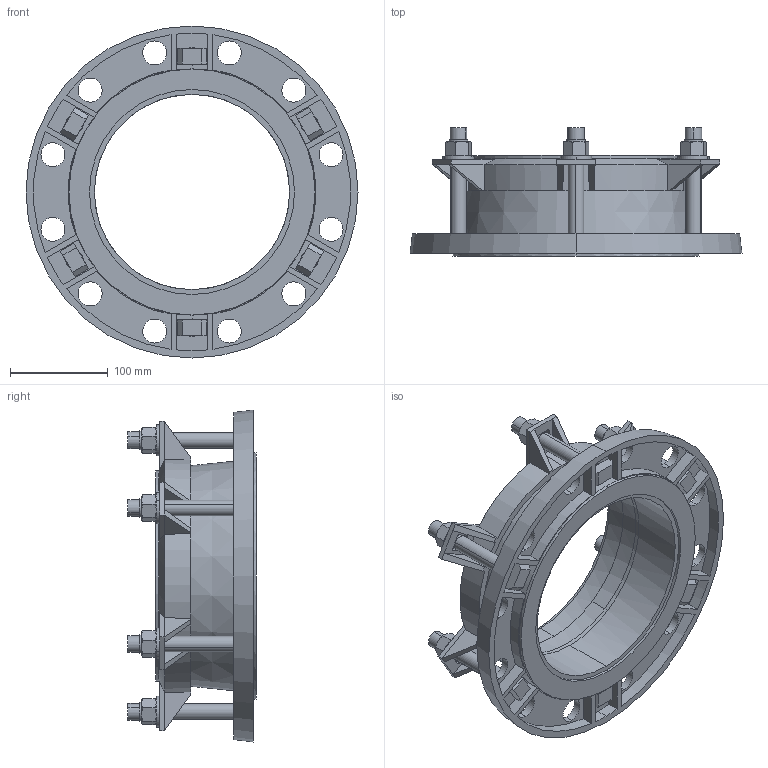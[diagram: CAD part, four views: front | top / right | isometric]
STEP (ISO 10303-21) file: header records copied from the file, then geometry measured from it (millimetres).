
FILE_DESCRIPTION (( 'STEP AP203' ), '1' );
FILE_NAME ('O_623_10_DN200-200mm_X1XXXXX_REV01.step', '2020-04-17T09:00:15', ( '' ), ( '' ), 'SwSTEP 2.0', 'SolidWorks 2019', '' );
FILE_SCHEMA (( 'CONFIG_CONTROL_DESIGN' ));
Length unit declared in the file: millimetre
Products named in the file (1): O_623_10_DN200-200mm_X1XXXXX_REV01
Bounding box: 340 x 131.5 x 340 mm (x, y, z)
Volume: 1984135.5 mm3; surface area: 374950.6 mm2
Topology: 1 solids, 1 shells, 570 faces, 1438 edges, 897 vertices
Faces by surface type: plane 288, cylinder 178, cone 102, bspline 2
Entity records: 17914 total; most frequent: CARTESIAN_POINT 4218, ORIENTED_EDGE 2876, DIRECTION 2779, EDGE_CURVE 1438, AXIS2_PLACEMENT_3D 1050, VERTEX_POINT 897, VECTOR 679, LINE 679
